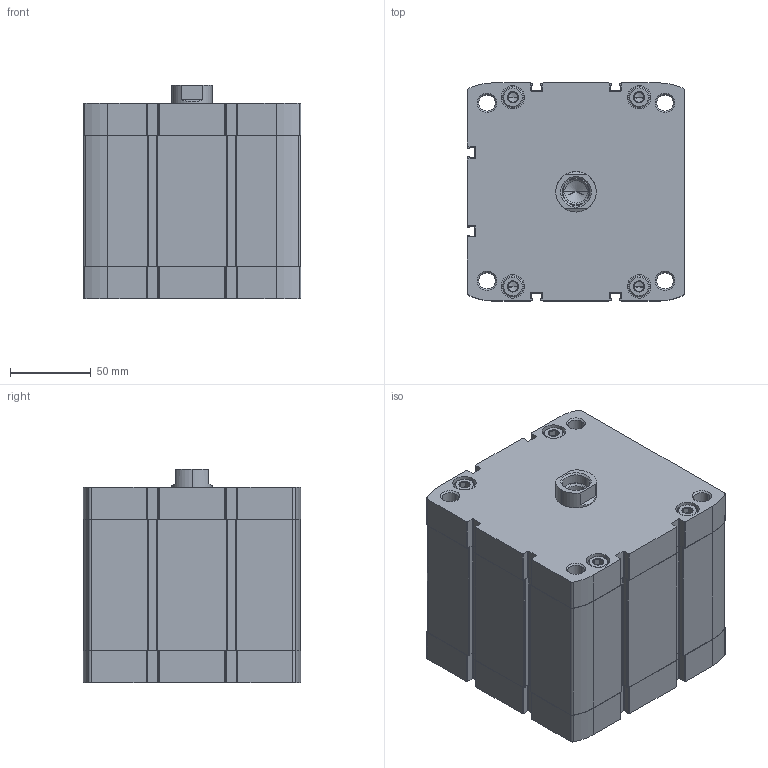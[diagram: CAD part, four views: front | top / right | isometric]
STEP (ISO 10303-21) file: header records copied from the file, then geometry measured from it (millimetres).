
FILE_DESCRIPTION (( 'STEP AP203' ), '1' );
FILE_NAME ('CCN125-40F.STEP', '2020-06-05T19:28:53', ( '' ), ( '' ), 'SwSTEP 2.0', 'SolidWorks 2019', '' );
FILE_SCHEMA (( 'CONFIG_CONTROL_DESIGN' ));
Length unit declared in the file: millimetre
Products named in the file (1): CCN125-40F
Bounding box: 134.6 x 134.6 x 132 mm (x, y, z)
Volume: 1622076.1 mm3; surface area: 229032.4 mm2
Topology: 2 solids, 2 shells, 535 faces, 1370 edges, 861 vertices
Faces by surface type: plane 267, cylinder 194, cone 74
Entity records: 17215 total; most frequent: CARTESIAN_POINT 3931, DIRECTION 2876, ORIENTED_EDGE 2704, EDGE_CURVE 1352, AXIS2_PLACEMENT_3D 1054, VERTEX_POINT 861, LINE 768, VECTOR 768
